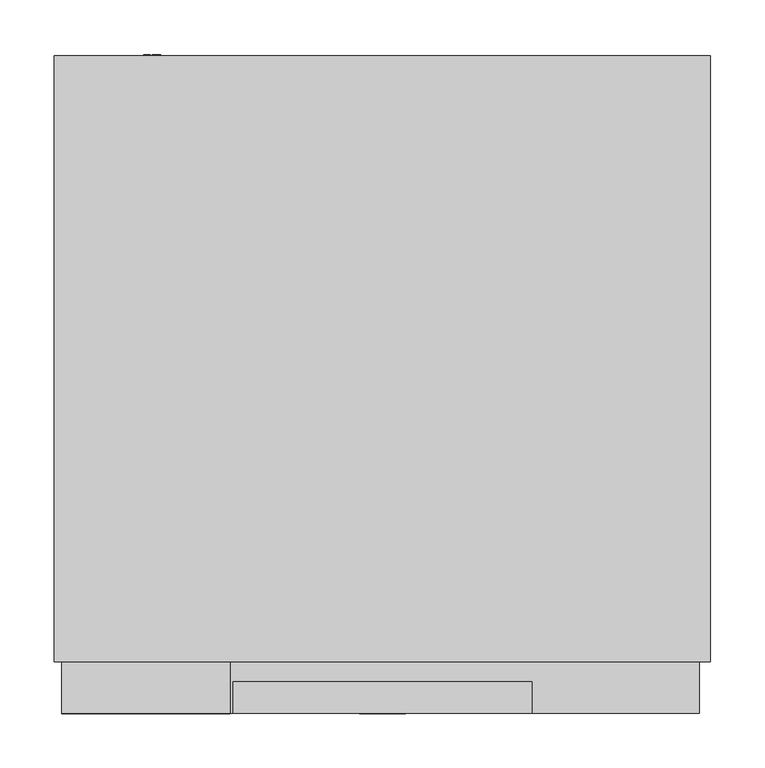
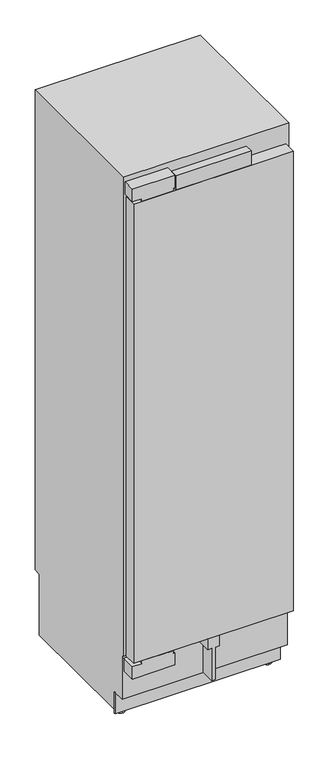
"""IFC4 building model written with IfcOpenShell, lengths in millimetres: proxy geometry, 11502560_USA_K2612Vi : 36261201_USA_11502560_K2612Vi."""

from ifc_helpers import new_model, si_unit, point, frame, frame_2d, origin, place, context, project, spatial, polyline, circle_curve, trimmed, segment, composite_curve, outline, extrude, source, transform, mapped, element, save
from ifc_brep_helpers import plane_surface, cylinder_surface, advanced_brep


def specialty_equipment_2461eca1(model_context):
    return source(origin(), model_context, "Body", "SolidModel", [
        extrude(outline(polyline([(-291.0, 47.0), (291.0, 47.0), (291.0, 0.0), (-291.0, 0.0), (-291.0, 47.0)])), frame((0.0, 0.0, 265.0), z_axis=(0.0, 0.0, 1.0), x_axis=(1.0, 0.0, 0.0)), (0.0, 0.0, 1.0), 1771.0),
        extrude(outline(polyline([(-137.5, 29.0), (137.5, 29.0), (137.5, 0.0), (-137.5, 0.0), (-137.5, 29.0)])), frame((0.0, 0.0, 2036.0), z_axis=(0.0, 0.0, 1.0), x_axis=(1.0, 0.0, 0.0)), (0.0, 0.0, 1.0), 56.0),
        extrude(outline(polyline([(265.0, 21.0), (265.0, 0.0), (265.0, -21.0), (224.0, -21.0), (224.0, -6.5), (99.0, -6.5), (99.0, 0.0), (99.0, 6.5), (224.0, 6.5), (224.0, 21.0), (265.0, 21.0)])), frame((0.0, 0.0, 0.0), z_axis=(0.0, 1.0, 0.0), x_axis=(0.0, 0.0, 1.0)), (0.0, 0.0, 1.0), 54.0),
        extrude(outline(polyline([(87.0, 1998.0), (544.0, 1998.0), (544.0, 1791.0), (475.0, 1791.0), (447.0, 1868.0), (201.3701279, 1868.0), (156.3150905, 1940.0880598), (87.0, 1949.0), (87.0, 1998.0)])), frame((-255.5, 0.0, 0.0), z_axis=(1.0, 0.0, 0.0), x_axis=(0.0, 1.0, 0.0)), (0.0, 0.0, 1.0), 511.0),
        extrude(outline(polyline([(196.9886114, 1875.0), (195.809433, 1875.0), (158.6921935, 1934.4), (159.8713719, 1934.4), (196.9886114, 1875.0)])), frame((-69.0, 0.0, 0.0), z_axis=(1.0, 0.0, 0.0), x_axis=(0.0, 1.0, 0.0)), (0.0, 0.0, 1.0), 138.0),
        extrude(outline(polyline([(2095.0, -295.0), (2047.0, -295.0), (2047.0, -261.0), (2036.5, -261.0), (2036.5, -146.0), (2047.0, -146.0), (2047.0, -140.0), (2095.0, -140.0), (2095.0, -295.0)])), frame((0.0, 0.0, 0.0), z_axis=(0.0, 1.0, 0.0), x_axis=(0.0, 0.0, 1.0)), (0.0, 0.0, 1.0), 47.0),
        extrude(outline(polyline([(254.0, -295.0), (206.0, -295.0), (206.0, -140.0), (254.0, -140.0), (254.0, -146.0), (264.0, -146.0), (264.0, -261.0), (254.0, -261.0), (254.0, -295.0)])), frame((0.0, 0.0, 0.0), z_axis=(0.0, 1.0, 0.0), x_axis=(0.0, 0.0, 1.0)), (0.0, 0.0, 1.0), 54.0),
        extrude(outline(polyline([(99.0373308, -211.2645771), (97.7615342, -211.2645771), (97.7615342, -205.3195541), (94.7968516, -205.3195541), (94.7968516, -210.969579), (93.5246295, -210.969579), (93.5246295, -205.3415693), (90.2570046, -205.3415693), (90.2570046, -211.4619689), (88.9546219, -211.4619689), (88.9546219, -204.0443524), (99.0373308, -204.0443524), (99.0373308, -211.2645771)])), frame((0.0, 604.0, 0.0), z_axis=(0.0, 1.0, 0.0), x_axis=(0.0, 0.0, 1.0)), (0.0, 0.0, 1.0), 1.0),
        extrude(outline(polyline([(99.0458, -214.5619704), (90.2663944, -214.5619704), (90.2663944, -219.6145879), (89.0134802, -219.6145879), (89.0134802, -213.3423809), (99.0458, -213.3423809), (99.0458, -214.5619704)])), frame((0.0, 604.0, 0.0), z_axis=(0.0, 1.0, 0.0), x_axis=(0.0, 0.0, 1.0)), (0.0, 0.0, 1.0), 1.0),
        extrude(outline(composite_curve([segment(trimmed(circle_curve(frame_2d((94.0, -211.5)), 7.5), [point((86.5, -211.5))], [point((101.5, -211.5))], False, "CARTESIAN"), True, "CONTINUOUS"), segment(trimmed(circle_curve(frame_2d((94.0, -211.5)), 7.5), [point((101.5, -211.5))], [point((86.5, -211.5))], False, "CARTESIAN"), True, "CONTINUOUS")], self_intersect=False)), frame((0.0, 577.0, 0.0), z_axis=(0.0, 1.0, 0.0), x_axis=(0.0, 0.0, 1.0)), (0.0, 0.0, 1.0), 27.0),
        extrude(outline(polyline([(-301.5, 104.0), (301.5, 104.0), (301.5, 99.0), (-301.5, 99.0), (-301.5, 104.0)])), frame((0.0, 0.0, 14.0), z_axis=(0.0, 0.0, 1.0), x_axis=(1.0, 0.0, 0.0)), (0.0, 0.0, 1.0), 83.0),
        advanced_brep(
        [(-267.5, 139.0, 0.0), (-267.5, 109.0, 0.0), (-267.5, 139.0, 7.0), (-267.5, 109.0, 7.0), (-267.5, 128.7, 7.0), (-267.5, 119.3, 7.0), (-267.5, 128.7, 28.0), (-267.5, 119.3, 28.0)],
        [
            (0, 1, circle_curve(frame((-267.5, 124.0, 0.0), z_axis=(0.0, 0.0, -1.0), x_axis=(1.0, 0.0, 0.0)), 15.0)),
            (1, 0, circle_curve(frame((-267.5, 124.0, 0.0), z_axis=(0.0, 0.0, -1.0), x_axis=(1.0, 0.0, 0.0)), 15.0)),
            (2, 3, circle_curve(frame((-267.5, 124.0, 7.0), z_axis=(0.0, 0.0, 1.0), x_axis=(1.0, 0.0, 0.0)), 15.0)),
            (3, 2, circle_curve(frame((-267.5, 124.0, 7.0), z_axis=(0.0, 0.0, 1.0), x_axis=(1.0, 0.0, 0.0)), 15.0)),
            (4, 5, circle_curve(frame((-267.5, 124.0, 7.0), z_axis=(0.0, 0.0, -1.0), x_axis=(0.0, -1.0, 0.0)), 4.7)),
            (5, 4, circle_curve(frame((-267.5, 124.0, 7.0), z_axis=(0.0, 0.0, -1.0), x_axis=(0.0, -1.0, 0.0)), 4.7)),
            (0, 2),
            (3, 1),
            (6, 7, circle_curve(frame((-267.5, 124.0, 28.0), z_axis=(0.0, 0.0, 1.0), x_axis=(0.0, -1.0, 0.0)), 4.7)),
            (7, 6, circle_curve(frame((-267.5, 124.0, 28.0), z_axis=(0.0, 0.0, 1.0), x_axis=(0.0, -1.0, 0.0)), 4.7)),
            (7, 5),
            (4, 6),
        ],
        [
            plane_surface(frame((-252.5, 124.0, 0.0), z_axis=(0.0, 0.0, -1.0), x_axis=(0.0, -1.0, 0.0))),
            plane_surface(frame((-252.5, 124.0, 7.0), z_axis=(0.0, 0.0, 1.0), x_axis=(0.0, 1.0, 0.0))),
            cylinder_surface(frame((-267.5, 124.0, 7.0), z_axis=(0.0, 0.0, -1.0), x_axis=(1.0, 0.0, 0.0)), 15.0),
            plane_surface(frame((-267.5, 119.3, 28.0), z_axis=(0.0, 0.0, 1.0), x_axis=(1.0, 0.0, 0.0))),
            cylinder_surface(frame((-267.5, 124.0, 28.0), z_axis=(0.0, 0.0, -1.0), x_axis=(0.0, -1.0, 0.0)), 4.7),
        ],
        [
            (0, [[1, 2]]),
            (1, [[3, 4], [5, 6]]),
            (2, [[-1, 7, -4, 8]]),
            (2, [[-2, -8, -3, -7]]),
            (3, [[9, 10]]),
            (4, [[-10, 11, -5, 12]]),
            (4, [[-9, -12, -6, -11]]),
        ],
    ),
        advanced_brep(
        [(267.5, 139.0, 0.0), (267.5, 109.0, 0.0), (267.5, 139.0, 7.0), (267.5, 109.0, 7.0), (267.5, 128.7, 7.0), (267.5, 119.3, 7.0), (267.5, 128.7, 28.0), (267.5, 119.3, 28.0)],
        [
            (0, 1, circle_curve(frame((267.5, 124.0, 0.0), z_axis=(0.0, 0.0, -1.0), x_axis=(1.0, 0.0, 0.0)), 15.0)),
            (1, 0, circle_curve(frame((267.5, 124.0, 0.0), z_axis=(0.0, 0.0, -1.0), x_axis=(1.0, 0.0, 0.0)), 15.0)),
            (2, 3, circle_curve(frame((267.5, 124.0, 7.0), z_axis=(0.0, 0.0, 1.0), x_axis=(1.0, 0.0, 0.0)), 15.0)),
            (3, 2, circle_curve(frame((267.5, 124.0, 7.0), z_axis=(0.0, 0.0, 1.0), x_axis=(1.0, 0.0, 0.0)), 15.0)),
            (4, 5, circle_curve(frame((267.5, 124.0, 7.0), z_axis=(0.0, 0.0, -1.0), x_axis=(0.0, -1.0, 0.0)), 4.7)),
            (5, 4, circle_curve(frame((267.5, 124.0, 7.0), z_axis=(0.0, 0.0, -1.0), x_axis=(0.0, -1.0, 0.0)), 4.7)),
            (0, 2),
            (3, 1),
            (6, 7, circle_curve(frame((267.5, 124.0, 28.0), z_axis=(0.0, 0.0, 1.0), x_axis=(0.0, -1.0, 0.0)), 4.7)),
            (7, 6, circle_curve(frame((267.5, 124.0, 28.0), z_axis=(0.0, 0.0, 1.0), x_axis=(0.0, -1.0, 0.0)), 4.7)),
            (7, 5),
            (4, 6),
        ],
        [
            plane_surface(frame((-252.5, 124.0, 0.0), z_axis=(0.0, 0.0, -1.0), x_axis=(0.0, -1.0, 0.0))),
            plane_surface(frame((-252.5, 124.0, 7.0), z_axis=(0.0, 0.0, 1.0), x_axis=(0.0, 1.0, 0.0))),
            cylinder_surface(frame((267.5, 124.0, 7.0), z_axis=(0.0, 0.0, -1.0), x_axis=(1.0, 0.0, 0.0)), 15.0),
            plane_surface(frame((-267.5, 119.3, 28.0), z_axis=(0.0, 0.0, 1.0), x_axis=(1.0, 0.0, 0.0))),
            cylinder_surface(frame((267.5, 124.0, 28.0), z_axis=(0.0, 0.0, -1.0), x_axis=(0.0, -1.0, 0.0)), 4.7),
        ],
        [
            (0, [[1, 2]]),
            (1, [[3, 4], [5, 6]]),
            (2, [[-1, 7, -4, 8]]),
            (2, [[-2, -8, -3, -7]]),
            (3, [[9, 10]]),
            (4, [[-10, 11, -5, 12]]),
            (4, [[-9, -12, -6, -11]]),
        ],
    ),
        advanced_brep(
        [(301.5, 47.0, 2114.0), (301.5, 47.0, 267.0), (301.5, 54.0, 267.0), (301.5, 54.0, 97.0), (301.5, 104.0, 97.0), (301.5, 104.0, 28.0), (301.5, 577.0, 28.0), (301.5, 577.0, 263.0), (301.5, 604.0, 263.0), (301.5, 604.0, 2114.0), (-301.5, 47.0, 2114.0), (-301.5, 604.0, 2114.0), (-301.5, 604.0, 263.0), (-301.5, 577.0, 263.0), (-301.5, 577.0, 28.0), (-301.5, 104.0, 28.0), (-301.5, 104.0, 97.0), (-301.5, 54.0, 97.0), (-301.5, 54.0, 267.0), (-301.5, 47.0, 267.0), (241.5, 577.0, 28.0), (241.5, 577.0, 14.0), (-241.5, 577.0, 14.0), (-241.5, 577.0, 28.0), (241.5, 104.0, 14.0), (-241.5, 104.0, 14.0), (-241.5, 104.0, 28.0), (241.5, 104.0, 28.0), (255.5, 47.0, 1998.0), (255.5, 47.0, 343.0), (-255.5, 47.0, 343.0), (-255.5, 47.0, 1998.0), (255.5, 544.0, 1998.0), (-255.5, 544.0, 1998.0), (-255.5, 544.0, 343.0), (255.5, 544.0, 343.0), (-260.0, 202.8193473, 28.0), (-279.0, 202.8193473, 28.0), (-279.0, 153.1806527, 28.0), (-260.0, 153.1806527, 28.0), (-279.5, 525.8193473, 28.0), (-279.5, 476.1806527, 28.0), (-263.5, 476.1806527, 28.0), (-263.5, 525.8193473, 28.0), (279.0, 153.1806527, 28.0), (279.0, 202.8193473, 28.0), (260.0, 202.8193473, 28.0), (260.0, 153.1806527, 28.0), (263.5, 525.8193473, 28.0), (263.5, 476.1806527, 28.0), (279.5, 476.1806527, 28.0), (279.5, 525.8193473, 28.0), (-260.0, 203.0, 25.0), (-260.0, 153.0, 25.0), (-279.0, 153.0, 25.0), (-279.0, 203.0, 25.0), (-260.0, 178.0, 25.0), (-279.0, 178.0, 25.0), (279.0, 178.0, 25.0), (279.0, 153.0, 25.0), (279.0, 203.0, 25.0), (260.0, 203.0, 25.0), (260.0, 153.0, 25.0), (260.0, 178.0, 25.0), (-279.5, 526.0, 25.0), (-279.5, 476.0, 25.0), (-279.5, 501.0, 25.0), (-263.5, 526.0, 25.0), (-263.5, 476.0, 25.0), (-263.5, 501.0, 25.0), (263.5, 526.0, 25.0), (263.5, 476.0, 25.0), (263.5, 501.0, 25.0), (279.5, 526.0, 25.0), (279.5, 476.0, 25.0), (279.5, 501.0, 25.0)],
        [
            (0, 1),
            (1, 2),
            (2, 3),
            (3, 4),
            (4, 5),
            (5, 6),
            (6, 7),
            (7, 8),
            (8, 9),
            (9, 0),
            (10, 11),
            (11, 12),
            (12, 13),
            (13, 14),
            (14, 15),
            (15, 16),
            (16, 17),
            (17, 18),
            (18, 19),
            (19, 10),
            (9, 11),
            (10, 0),
            (8, 12),
            (7, 13),
            (6, 20),
            (20, 21),
            (21, 22),
            (22, 23),
            (23, 14),
            (21, 24),
            (24, 25),
            (25, 22),
            (4, 16),
            (15, 26),
            (26, 25),
            (24, 27),
            (27, 5),
            (3, 17),
            (2, 18),
            (1, 19),
            (28, 29),
            (29, 30),
            (30, 31),
            (31, 28),
            (32, 33),
            (33, 34),
            (34, 35),
            (35, 32),
            (35, 29),
            (28, 32),
            (34, 30),
            (33, 31),
            (23, 26),
            (36, 37),
            (37, 38),
            (38, 39),
            (39, 36),
            (40, 41),
            (41, 42),
            (42, 43),
            (43, 40),
            (27, 20),
            (44, 45),
            (45, 46),
            (46, 47),
            (47, 44),
            (48, 49),
            (49, 50),
            (50, 51),
            (51, 48),
            (52, 53, circle_curve(frame((-260.0, 178.0, 25.0), z_axis=(-1.0, 0.0, 0.0), x_axis=(0.0, -1.0, 0.0)), 25.0)),
            (53, 54),
            (54, 55, circle_curve(frame((-279.0, 178.0, 25.0), z_axis=(1.0, 0.0, 0.0), x_axis=(0.0, -1.0, 0.0)), 25.0)),
            (55, 52),
            (53, 39, circle_curve(frame((-260.0, 178.0, 25.0), z_axis=(-1.0, 0.0, 0.0), x_axis=(0.0, -1.0, 0.0)), 25.0)),
            (38, 54, circle_curve(frame((-279.0, 178.0, 25.0), z_axis=(1.0, 0.0, 0.0), x_axis=(0.0, -1.0, 0.0)), 25.0)),
            (55, 37, circle_curve(frame((-279.0, 178.0, 25.0), z_axis=(1.0, 0.0, 0.0), x_axis=(0.0, -1.0, 0.0)), 25.0)),
            (36, 52, circle_curve(frame((-260.0, 178.0, 25.0), z_axis=(-1.0, 0.0, 0.0), x_axis=(0.0, -1.0, 0.0)), 25.0)),
            (52, 56),
            (56, 53),
            (54, 57),
            (57, 55),
            (58, 59),
            (59, 60, circle_curve(frame((279.0, 178.0, 25.0), z_axis=(1.0, 0.0, 0.0), x_axis=(0.0, -1.0, 0.0)), 25.0)),
            (60, 58),
            (60, 45, circle_curve(frame((279.0, 178.0, 25.0), z_axis=(1.0, 0.0, 0.0), x_axis=(0.0, -1.0, 0.0)), 25.0)),
            (44, 59, circle_curve(frame((279.0, 178.0, 25.0), z_axis=(1.0, 0.0, 0.0), x_axis=(0.0, -1.0, 0.0)), 25.0)),
            (61, 62, circle_curve(frame((260.0, 178.0, 25.0), z_axis=(-1.0, 0.0, 0.0), x_axis=(0.0, -1.0, 0.0)), 25.0)),
            (62, 63),
            (63, 61),
            (62, 47, circle_curve(frame((260.0, 178.0, 25.0), z_axis=(-1.0, 0.0, 0.0), x_axis=(0.0, -1.0, 0.0)), 25.0)),
            (46, 61, circle_curve(frame((260.0, 178.0, 25.0), z_axis=(-1.0, 0.0, 0.0), x_axis=(0.0, -1.0, 0.0)), 25.0)),
            (64, 65, circle_curve(frame((-279.5, 501.0, 25.0), z_axis=(-1.0, 0.0, 0.0), x_axis=(0.0, -1.0, 0.0)), 25.0)),
            (65, 66),
            (66, 64),
            (65, 41, circle_curve(frame((-279.5, 501.0, 25.0), z_axis=(-1.0, 0.0, 0.0), x_axis=(0.0, -1.0, 0.0)), 25.0)),
            (40, 64, circle_curve(frame((-279.5, 501.0, 25.0), z_axis=(-1.0, 0.0, 0.0), x_axis=(0.0, -1.0, 0.0)), 25.0)),
            (64, 67),
            (67, 68, circle_curve(frame((-263.5, 501.0, 25.0), z_axis=(-1.0, 0.0, 0.0), x_axis=(0.0, -1.0, 0.0)), 25.0)),
            (68, 65),
            (43, 67, circle_curve(frame((-263.5, 501.0, 25.0), z_axis=(-1.0, 0.0, 0.0), x_axis=(0.0, -1.0, 0.0)), 25.0)),
            (68, 42, circle_curve(frame((-263.5, 501.0, 25.0), z_axis=(-1.0, 0.0, 0.0), x_axis=(0.0, -1.0, 0.0)), 25.0)),
            (67, 69),
            (69, 68),
            (70, 71, circle_curve(frame((263.5, 501.0, 25.0), z_axis=(-1.0, 0.0, 0.0), x_axis=(0.0, -1.0, 0.0)), 25.0)),
            (71, 72),
            (72, 70),
            (71, 49, circle_curve(frame((263.5, 501.0, 25.0), z_axis=(-1.0, 0.0, 0.0), x_axis=(0.0, -1.0, 0.0)), 25.0)),
            (48, 70, circle_curve(frame((263.5, 501.0, 25.0), z_axis=(-1.0, 0.0, 0.0), x_axis=(0.0, -1.0, 0.0)), 25.0)),
            (70, 73),
            (73, 74, circle_curve(frame((279.5, 501.0, 25.0), z_axis=(-1.0, 0.0, 0.0), x_axis=(0.0, -1.0, 0.0)), 25.0)),
            (74, 71),
            (51, 73, circle_curve(frame((279.5, 501.0, 25.0), z_axis=(-1.0, 0.0, 0.0), x_axis=(0.0, -1.0, 0.0)), 25.0)),
            (74, 50, circle_curve(frame((279.5, 501.0, 25.0), z_axis=(-1.0, 0.0, 0.0), x_axis=(0.0, -1.0, 0.0)), 25.0)),
            (73, 75),
            (75, 74),
            (59, 62),
            (61, 60),
        ],
        [
            plane_surface(frame((301.5, 604.0, 2114.0), z_axis=(1.0, 0.0, 0.0), x_axis=(0.0, -1.0, 0.0))),
            plane_surface(frame((-301.5, 604.0, 2114.0), z_axis=(-1.0, 0.0, 0.0), x_axis=(0.0, 1.0, 0.0))),
            plane_surface(frame((-301.5, 47.0, 2114.0), z_axis=(0.0, 0.0, 1.0), x_axis=(1.0, 0.0, 0.0))),
            plane_surface(frame((-301.5, 604.0, 2114.0), z_axis=(0.0, 1.0, 0.0), x_axis=(1.0, 0.0, 0.0))),
            plane_surface(frame((-301.5, 604.0, 263.0), z_axis=(0.0, 0.0, -1.0), x_axis=(1.0, 0.0, 0.0))),
            plane_surface(frame((-301.5, 577.0, 263.0), z_axis=(0.0, 1.0, 0.0), x_axis=(1.0, 0.0, 0.0))),
            plane_surface(frame((-301.5, 577.0, 14.0), z_axis=(0.0, 0.0, -1.0), x_axis=(1.0, 0.0, 0.0))),
            plane_surface(frame((-301.5, 104.0, 14.0), z_axis=(0.0, -1.0, 0.0), x_axis=(1.0, 0.0, 0.0))),
            plane_surface(frame((-301.5, 104.0, 97.0), z_axis=(0.0, 0.0, -1.0), x_axis=(1.0, 0.0, 0.0))),
            plane_surface(frame((-301.5, 54.0, 97.0), z_axis=(0.0, -1.0, 0.0), x_axis=(1.0, 0.0, 0.0))),
            plane_surface(frame((-301.5, 54.0, 267.0), z_axis=(0.0, 0.0, -1.0), x_axis=(1.0, 0.0, 0.0))),
            plane_surface(frame((-301.5, 47.0, 267.0), z_axis=(0.0, -1.0, 0.0), x_axis=(1.0, 0.0, 0.0))),
            plane_surface(frame((255.5, 544.0, 1998.0), z_axis=(0.0, -1.0, 0.0), x_axis=(0.0, 0.0, -1.0))),
            plane_surface(frame((255.5, 544.0, 1998.0), z_axis=(-1.0, 0.0, 0.0), x_axis=(0.0, -1.0, 0.0))),
            plane_surface(frame((255.5, 544.0, 343.0), z_axis=(0.0, 0.0, 1.0), x_axis=(0.0, -1.0, 0.0))),
            plane_surface(frame((-255.5, 544.0, 343.0), z_axis=(1.0, 0.0, 0.0), x_axis=(0.0, -1.0, 0.0))),
            plane_surface(frame((-255.5, 544.0, 1998.0), z_axis=(0.0, 0.0, -1.0), x_axis=(0.0, -1.0, 0.0))),
            plane_surface(frame((-301.5, 604.0, 28.0), z_axis=(0.0, 0.0, -1.0), x_axis=(-1.0, 0.0, 0.0))),
            plane_surface(frame((-241.5, 104.0, 28.0), z_axis=(-1.0, 0.0, 0.0), x_axis=(0.0, 0.0, -1.0))),
            plane_surface(frame((241.5, 604.0, 28.0), z_axis=(1.0, 0.0, 0.0), x_axis=(0.0, 0.0, -1.0))),
            cylinder_surface(frame((-394.1988927, 178.0, 25.0), z_axis=(1.0, 0.0, 0.0), x_axis=(0.0, -1.0, 0.0)), 25.0),
            plane_surface(frame((-260.0, 178.0, 25.0), z_axis=(1.0, 0.0, 0.0), x_axis=(0.0, -1.0, 0.0))),
            plane_surface(frame((-279.0, 178.0, 25.0), z_axis=(-1.0, 0.0, 0.0), x_axis=(0.0, -1.0, 0.0))),
            plane_surface(frame((279.0, 178.0, 25.0), z_axis=(1.0, 0.0, 0.0), x_axis=(0.0, -1.0, 0.0))),
            plane_surface(frame((260.0, 178.0, 25.0), z_axis=(-1.0, 0.0, 0.0), x_axis=(0.0, -1.0, 0.0))),
            plane_surface(frame((-279.5, 501.0, 25.0), z_axis=(-1.0, 0.0, 0.0), x_axis=(0.0, -1.0, 0.0))),
            cylinder_surface(frame((-394.1988927, 501.0, 25.0), z_axis=(1.0, 0.0, 0.0), x_axis=(0.0, -1.0, 0.0)), 25.0),
            plane_surface(frame((-263.5, 501.0, 25.0), z_axis=(1.0, 0.0, 0.0), x_axis=(0.0, -1.0, 0.0))),
            plane_surface(frame((263.5, 501.0, 25.0), z_axis=(-1.0, 0.0, 0.0), x_axis=(0.0, -1.0, 0.0))),
            plane_surface(frame((279.5, 501.0, 25.0), z_axis=(1.0, 0.0, 0.0), x_axis=(0.0, -1.0, 0.0))),
        ],
        [
            (0, [[1, 2, 3, 4, 5, 6, 7, 8, 9, 10]]),
            (1, [[11, 12, 13, 14, 15, 16, 17, 18, 19, 20]]),
            (2, [[-10, 21, -11, 22]]),
            (3, [[-9, 23, -12, -21]]),
            (4, [[-8, 24, -13, -23]]),
            (5, [[-24, -7, 25, 26, 27, 28, 29, -14]]),
            (6, [[-27, 30, 31, 32]]),
            (7, [[33, -16, 34, 35, -31, 36, 37, -5]]),
            (8, [[-4, 38, -17, -33]]),
            (9, [[-3, 39, -18, -38]]),
            (10, [[-2, 40, -19, -39]]),
            (11, [[-1, -22, -20, -40], [41, 42, 43, 44]]),
            (12, [[45, 46, 47, 48]]),
            (13, [[-48, 49, -41, 50]]),
            (14, [[-47, 51, -42, -49]]),
            (15, [[-46, 52, -43, -51]]),
            (16, [[-45, -50, -44, -52]]),
            (17, [[53, -34, -15, -29], [54, 55, 56, 57], [58, 59, 60, 61]]),
            (17, [[62, -25, -6, -37], [63, 64, 65, 66], [67, 68, 69, 70]]),
            (18, [[-53, -28, -32, -35]]),
            (19, [[-62, -36, -30, -26]]),
            (20, [[71, 72, 73, 74]]),
            (20, [[-72, 75, -56, 76]]),
            (20, [[-74, 77, -54, 78]]),
            (21, [[-71, 79, 80]]),
            (21, [[-80, -79, -78, -57, -75]]),
            (22, [[-73, 81, 82]]),
            (22, [[-81, -76, -55, -77, -82]]),
            (23, [[83, 84, 85]]),
            (23, [[-83, -85, 86, -63, 87]]),
            (24, [[88, 89, 90]]),
            (24, [[-89, 91, -65, 92, -90]]),
            (25, [[93, 94, 95]]),
            (25, [[-94, 96, -58, 97, -95]]),
            (26, [[-93, 98, 99, 100]]),
            (26, [[-98, -97, -61, 101]]),
            (26, [[-100, 102, -59, -96]]),
            (27, [[-99, 103, 104]]),
            (27, [[-104, -103, -101, -60, -102]]),
            (28, [[105, 106, 107]]),
            (28, [[-106, 108, -67, 109, -107]]),
            (26, [[-105, 110, 111, 112]]),
            (26, [[-110, -109, -70, 113]]),
            (26, [[-112, 114, -68, -108]]),
            (29, [[-111, 115, 116]]),
            (29, [[-116, -115, -113, -69, -114]]),
            (20, [[-84, 117, -88, 118]]),
            (20, [[-117, -87, -66, -91]]),
            (20, [[-118, -92, -64, -86]]),
        ],
    ),
    ])


if __name__ == "__main__":
    model = new_model("IFC4")
    model_context = context("Model", 3, world=origin())
    ifc_project = project(units=[si_unit("LENGTHUNIT", "METRE", prefix="MILLI")], contexts=[model_context])
    site = spatial("IfcSite", under=ifc_project)
    building = spatial("IfcBuilding", under=site)
    placement = place(None, origin())
    specialty_equipment_shape = specialty_equipment_2461eca1(model_context)
    element("IfcBuildingElementProxy", 1, Name="11502560_USA_K2612Vi : 36261201_USA_11502560_K2612Vi", ObjectType="11502560_USA_K2612Vi : 36261201_USA_11502560_K2612Vi", at=placement, inside=building, context=model_context, shape_type="MappedRepresentation", body=[
        mapped(specialty_equipment_shape, transform((0.0, 0.0, 0.0), x_axis=(1.0, 0.0, 0.0), y_axis=(0.0, 1.0, 0.0), z_axis=(0.0, 0.0, 1.0))),
    ])
    save(model, "model.ifc")
